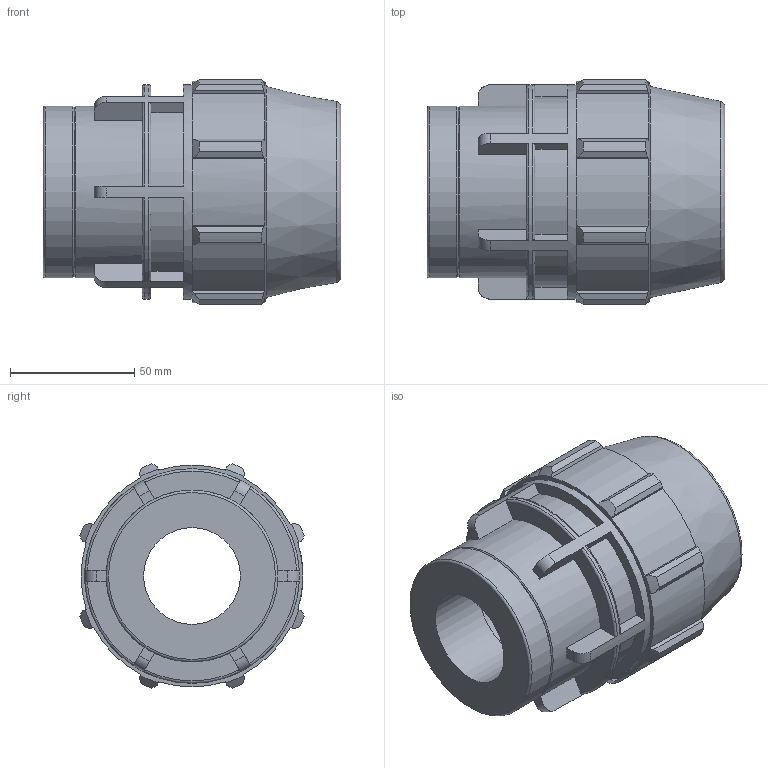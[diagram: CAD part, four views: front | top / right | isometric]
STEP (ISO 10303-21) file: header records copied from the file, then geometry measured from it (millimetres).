
FILE_DESCRIPTION(/* description */ ('PLASSON FEMALE ADAPTOR G 1 1/2'''' - 1 1/4''''F'),/* implementation_level */ '2;1');
FILE_NAME(/* name */ 'C:\Dropbox\KIMPROJECTS-Inventor 2019\99-16-3568-Processing Inch\ASTM Compression 2021\0703M0T\0703M0T15013.ipt.stp',/* time_stamp */ '2021-08-26T12:31:06+03:00',/* author */ ('KIM'),/* organization */ (''),/* preprocessor_version */ 'ST-DEVELOPER v17.2',/* originating_system */ 'Autodesk Inventor 2019',/* authorisation */ '');
FILE_SCHEMA (('AUTOMOTIVE_DESIGN { 1 0 10303 214 3 1 1 }'));
Length unit declared in the file: inch
Products named in the file (1): 0703M0T15013
Bounding box: 119.89 x 90.34 x 90.34 mm (x, y, z)
Volume: 388956.3 mm3; surface area: 61999.9 mm2
Topology: 1 solids, 1 shells, 148 faces, 420 edges, 284 vertices
Faces by surface type: plane 86, cylinder 28, torus 20, cone 14
Full cylindrical faces by diameter (mm): 38.952 x1, 45.695 x1, 48.1 x1, 69.129 x2, 86.411 x1
Entity records: 5404 total; most frequent: CARTESIAN_POINT 1337, ORIENTED_EDGE 840, DIRECTION 798, EDGE_CURVE 420, AXIS2_PLACEMENT_3D 297, VERTEX_POINT 284, LINE 204, VECTOR 204
